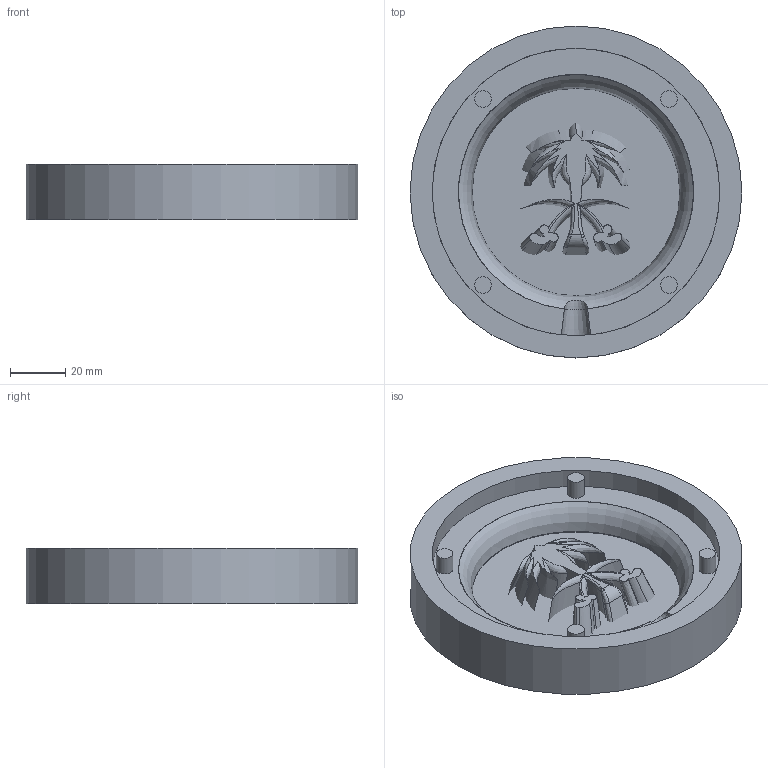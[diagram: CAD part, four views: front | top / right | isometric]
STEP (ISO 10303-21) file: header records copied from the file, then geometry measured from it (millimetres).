
FILE_DESCRIPTION( ( '' ), ' ' );
FILE_NAME( '/vol/tmp/translate-18250880057304704618/5d1b01f3847f4e1753bfe95f.step', '2019-07-02T07:04:20', ( '' ), ( '' ), ' ', ' ', ' ' );
FILE_SCHEMA( ( 'AUTOMOTIVE_DESIGN { 1 0 10303 214 1 1 1 1 }' ) );
Length unit declared in the file: metre
Products named in the file (8): Part 8; Part 7; Part 6; Part 4; Part 3; Part 5; Part 2; Part 1
Bounding box: 120 x 120 x 20 mm (x, y, z)
Volume: 119388.7 mm3; surface area: 58986.5 mm2
Topology: 7 solids, 13 shells, 132 faces, 415 edges, 301 vertices
Faces by surface type: bspline 91, plane 23, cylinder 15, cone 2, torus 1
Full cylindrical faces by diameter (mm): 6 x8, 75 x1, 85 x2, 104 x2, 120 x1
Entity records: 14442 total; most frequent: CARTESIAN_POINT 10636, ORIENTED_EDGE 766, EDGE_CURVE 383, B_SPLINE_CURVE_WITH_KNOTS 327, VERTEX_POINT 281, DIRECTION 186, EDGE_LOOP 158, FACE_OUTER_BOUND 147
